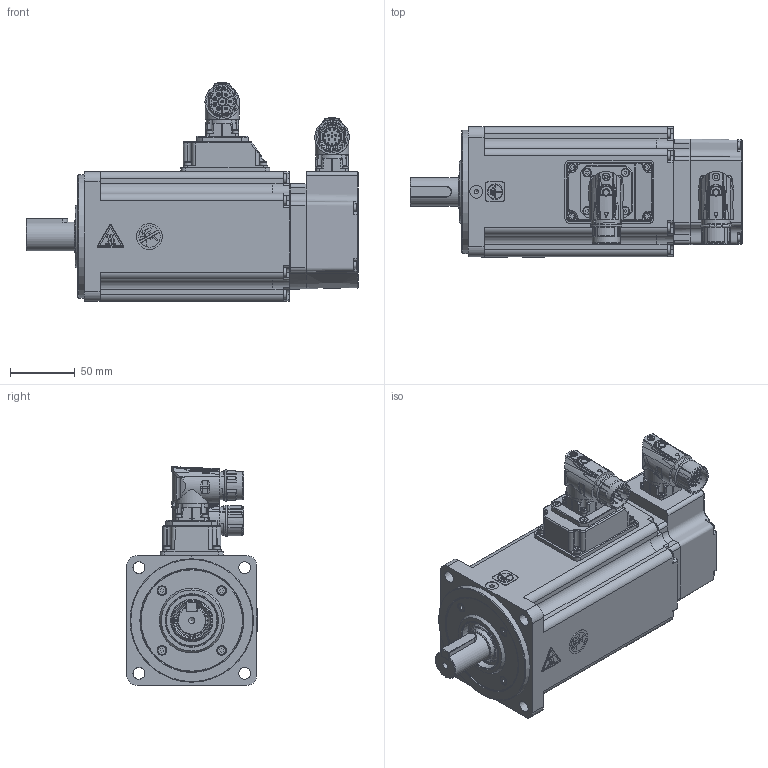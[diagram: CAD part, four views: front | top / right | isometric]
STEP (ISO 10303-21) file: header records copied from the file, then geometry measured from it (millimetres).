
FILE_DESCRIPTION( ( 'Unknown' ), '1' );
FILE_NAME( 'U:/05_Progetto TCE/010-TCE motor drawings/TCE100/vuoti/TCE100 4B XX 3 A1 0 C2.stp', 'Unknown', ( 'Unknown' ), ( 'Unknown' ), 'PSStep 17.0.49', 'Unknown', ' ' );
FILE_SCHEMA( ( 'AUTOMOTIVE_DESIGN { 1 0 10303 214 1 1 1 1 }' ) );
Length unit declared in the file: millimetre
Products named in the file (15): 005911000430
Bounding box: 255.5 x 100.3 x 168.5 mm (x, y, z)
Volume: 782552.7 mm3; surface area: 281118.1 mm2
Topology: 15 solids, 92 shells, 2973 faces, 7407 edges, 4781 vertices
Faces by surface type: plane 1454, cylinder 732, cone 281, bspline 194, torus 163, sphere 111, extrusion 38
Full cylindrical faces by diameter (mm): 0.5 x1, 1 x21, 1.2 x17, 1.4 x4, 2 x4, 2.013 x4, 2.2 x2, 2.459 x23, 2.5 x8, 2.6 x4, 2.8 x4, 3 x29, 3.2 x1, 3.242 x36, 3.5 x8, 4 x21, 4.4 x4, 4.5 x18, 4.7 x4, 4.917 x1, 5.5 x12, 5.8 x1, 5.9 x2, 6.8 x1, 7 x16, 7.5 x4, 8 x4, 10 x1, 11 x1, 12 x2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
Entity records: 118537 total; most frequent: CARTESIAN_POINT 30210, DIRECTION 13286, ORIENTED_EDGE 12826, EDGE_CURVE 6413, AXIS2_PLACEMENT_3D 4967, VERTEX_POINT 4536, EDGE_LOOP 3923, FACE_OUTER_BOUND 3418
